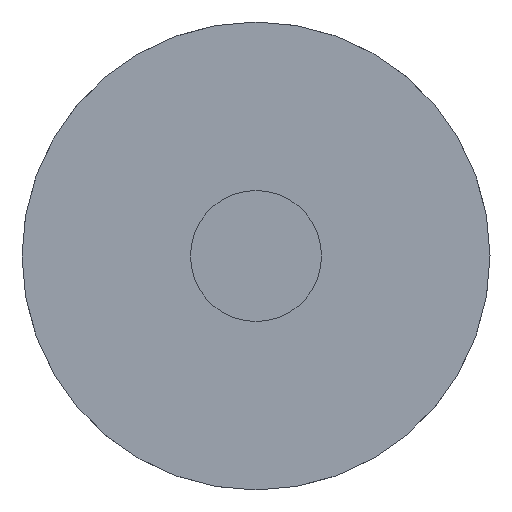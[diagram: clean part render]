
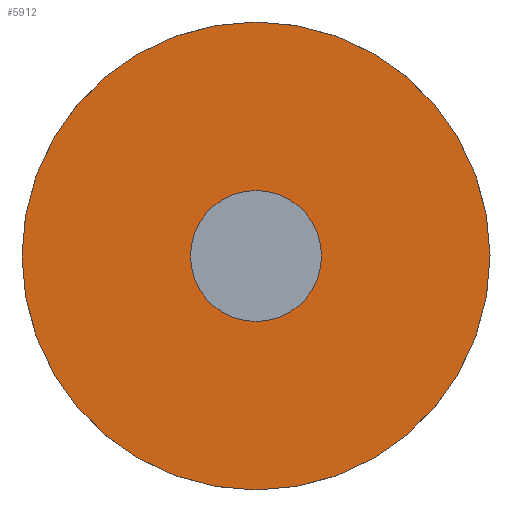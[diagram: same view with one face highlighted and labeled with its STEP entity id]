
A CAD part, left-side view. The second image highlights one B-rep face of the part: STEP entity #5912.
In plain terms, the highlighted planar face has unit normal (-1, 0, 0) as drawn and (0, -1, 0) by its records, which use the part's own axes.
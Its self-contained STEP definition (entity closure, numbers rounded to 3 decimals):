
#10 = CARTESIAN_POINT ( 'NONE',  ( 0., -2., 12.5 ) ) ;
#216 = DIRECTION ( 'NONE',  ( 0., 0., -1. ) ) ;
#247 = EDGE_CURVE ( 'NONE', #1425, #4204, #4486, .T. ) ;
#1251 = ORIENTED_EDGE ( 'NONE', *, *, #247, .F. ) ;
#1425 = VERTEX_POINT ( 'NONE', #3138 ) ;
#1486 = CIRCLE ( 'NONE', #2372, 12.5 ) ;
#1609 = CIRCLE ( 'NONE', #4668, 3.5 ) ;
#1712 = PLANE ( 'NONE',  #5006 ) ;
#2303 = FACE_OUTER_BOUND ( 'NONE', #3115, .T. ) ;
#2317 = CARTESIAN_POINT ( 'NONE',  ( 0., -2., 3.5 ) ) ;
#2334 = CARTESIAN_POINT ( 'NONE',  ( 0., -2., 0. ) ) ;
#2372 = AXIS2_PLACEMENT_3D ( 'NONE', #6373, #5476, #5923 ) ;
#2377 = CIRCLE ( 'NONE', #5885, 12.5 ) ;
#2382 = CARTESIAN_POINT ( 'NONE',  ( 0., -2., -12.5 ) ) ;
#2872 = DIRECTION ( 'NONE',  ( 0., 0., -1. ) ) ;
#3115 = EDGE_LOOP ( 'NONE', ( #5025, #5320 ) ) ;
#3138 = CARTESIAN_POINT ( 'NONE',  ( 0., -2., -3.5 ) ) ;
#3586 = ORIENTED_EDGE ( 'NONE', *, *, #5766, .F. ) ;
#3780 = DIRECTION ( 'NONE',  ( 0., -1., 0. ) ) ;
#3906 = VERTEX_POINT ( 'NONE', #10 ) ;
#4120 = EDGE_LOOP ( 'NONE', ( #3586, #1251 ) ) ;
#4190 = EDGE_CURVE ( 'NONE', #3906, #6614, #1486, .T. ) ;
#4204 = VERTEX_POINT ( 'NONE', #2317 ) ;
#4268 = DIRECTION ( 'NONE',  ( 0., 0., -1. ) ) ;
#4332 = CARTESIAN_POINT ( 'NONE',  ( 0., -2., 0. ) ) ;
#4387 = FACE_BOUND ( 'NONE', #4120, .T. ) ;
#4486 = CIRCLE ( 'NONE', #6471, 3.5 ) ;
#4668 = AXIS2_PLACEMENT_3D ( 'NONE', #6452, #5488, #2872 ) ;
#5006 = AXIS2_PLACEMENT_3D ( 'NONE', #2334, #5527, #216 ) ;
#5025 = ORIENTED_EDGE ( 'NONE', *, *, #6563, .T. ) ;
#5320 = ORIENTED_EDGE ( 'NONE', *, *, #4190, .T. ) ;
#5338 = DIRECTION ( 'NONE',  ( 0., 0., -1. ) ) ;
#5476 = DIRECTION ( 'NONE',  ( 0., -1., 0. ) ) ;
#5488 = DIRECTION ( 'NONE',  ( 0., -1., 0. ) ) ;
#5527 = DIRECTION ( 'NONE',  ( 0., -1., 0. ) ) ;
#5766 = EDGE_CURVE ( 'NONE', #4204, #1425, #1609, .T. ) ;
#5853 = DIRECTION ( 'NONE',  ( 0., -1., 0. ) ) ;
#5885 = AXIS2_PLACEMENT_3D ( 'NONE', #6501, #5853, #4268 ) ;
#5912 = ADVANCED_FACE ( 'NONE', ( #2303, #4387 ), #1712, .T. ) ;
#5923 = DIRECTION ( 'NONE',  ( 0., 0., -1. ) ) ;
#6373 = CARTESIAN_POINT ( 'NONE',  ( 0., -2., 0. ) ) ;
#6452 = CARTESIAN_POINT ( 'NONE',  ( 0., -2., 0. ) ) ;
#6471 = AXIS2_PLACEMENT_3D ( 'NONE', #4332, #3780, #5338 ) ;
#6501 = CARTESIAN_POINT ( 'NONE',  ( 0., -2., 0. ) ) ;
#6563 = EDGE_CURVE ( 'NONE', #6614, #3906, #2377, .T. ) ;
#6614 = VERTEX_POINT ( 'NONE', #2382 ) ;
